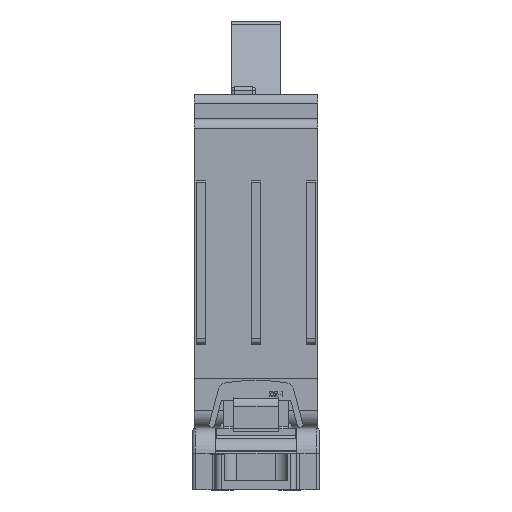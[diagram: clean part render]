
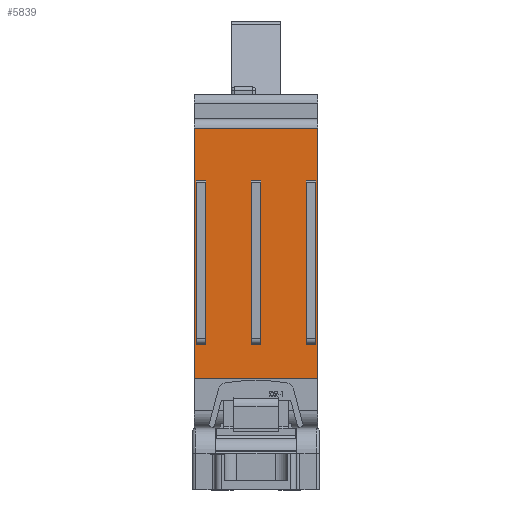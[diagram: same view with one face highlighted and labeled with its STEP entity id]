
A CAD part, front view. The second image highlights one B-rep face of the part: STEP entity #5839.
In plain terms, the highlighted planar face has unit normal (0, -1, 0).
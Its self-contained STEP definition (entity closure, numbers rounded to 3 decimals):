
#39 = CARTESIAN_POINT ( 'NONE',  ( 0.75, -37.25, 13.5 ) ) ;
#270 = VERTEX_POINT ( 'NONE', #23570 ) ;
#338 = CARTESIAN_POINT ( 'NONE',  ( -9.65, -37.25, 0. ) ) ;
#370 = DIRECTION ( 'NONE',  ( -1., 0., 0. ) ) ;
#659 = VECTOR ( 'NONE', #18708, 1000. ) ;
#660 = VECTOR ( 'NONE', #1988, 1000. ) ;
#692 = CARTESIAN_POINT ( 'NONE',  ( -9.65, -37.25, 38.8 ) ) ;
#833 = LINE ( 'NONE', #2550, #24282 ) ;
#991 = LINE ( 'NONE', #13465, #5293 ) ;
#1165 = EDGE_CURVE ( 'NONE', #5440, #18766, #5127, .T. ) ;
#1303 = EDGE_CURVE ( 'NONE', #20830, #5687, #17433, .T. ) ;
#1355 = LINE ( 'NONE', #19369, #18023 ) ;
#1531 = DIRECTION ( 'NONE',  ( -1., 0., 0. ) ) ;
#1660 = CARTESIAN_POINT ( 'NONE',  ( 8.15, -37.25, 38.8 ) ) ;
#1908 = LINE ( 'NONE', #16580, #19788 ) ;
#1969 = LINE ( 'NONE', #18112, #15812 ) ;
#1988 = DIRECTION ( 'NONE',  ( 0., 0., -1. ) ) ;
#2149 = CARTESIAN_POINT ( 'NONE',  ( -10., -37.25, 13.5 ) ) ;
#2218 = LINE ( 'NONE', #16321, #8042 ) ;
#2306 = EDGE_LOOP ( 'NONE', ( #9093, #5335, #13983, #15335 ) ) ;
#2320 = CARTESIAN_POINT ( 'NONE',  ( 10., -37.25, 48.5 ) ) ;
#2348 = DIRECTION ( 'NONE',  ( 0., 0., -1. ) ) ;
#2404 = CARTESIAN_POINT ( 'NONE',  ( 8.15, -37.25, 13.5 ) ) ;
#2537 = LINE ( 'NONE', #11949, #660 ) ;
#2550 = CARTESIAN_POINT ( 'NONE',  ( -8.15, -37.25, 0. ) ) ;
#2598 = VERTEX_POINT ( 'NONE', #2404 ) ;
#2762 = AXIS2_PLACEMENT_3D ( 'NONE', #8626, #16569, #4701 ) ;
#2987 = ORIENTED_EDGE ( 'NONE', *, *, #1303, .T. ) ;
#3101 = EDGE_CURVE ( 'NONE', #7949, #20461, #991, .T. ) ;
#3108 = VERTEX_POINT ( 'NONE', #15343 ) ;
#3258 = VECTOR ( 'NONE', #15623, 1000. ) ;
#3681 = VERTEX_POINT ( 'NONE', #15766 ) ;
#3708 = EDGE_CURVE ( 'NONE', #5687, #15985, #22842, .T. ) ;
#3719 = VECTOR ( 'NONE', #20377, 1000. ) ;
#4554 = CARTESIAN_POINT ( 'NONE',  ( 10., -37.25, 0. ) ) ;
#4569 = DIRECTION ( 'NONE',  ( -1., 0., 0. ) ) ;
#4701 = DIRECTION ( 'NONE',  ( 0., 0., 1. ) ) ;
#4776 = CARTESIAN_POINT ( 'NONE',  ( -8.15, -37.25, 38.8 ) ) ;
#4816 = DIRECTION ( 'NONE',  ( 0., 0., -1. ) ) ;
#4914 = CARTESIAN_POINT ( 'NONE',  ( 9.65, -37.25, 13.5 ) ) ;
#5127 = LINE ( 'NONE', #18298, #18377 ) ;
#5293 = VECTOR ( 'NONE', #9757, 1000. ) ;
#5335 = ORIENTED_EDGE ( 'NONE', *, *, #7184, .T. ) ;
#5415 = CARTESIAN_POINT ( 'NONE',  ( 10., -37.25, 8. ) ) ;
#5440 = VERTEX_POINT ( 'NONE', #4776 ) ;
#5504 = ORIENTED_EDGE ( 'NONE', *, *, #24450, .T. ) ;
#5675 = EDGE_CURVE ( 'NONE', #15425, #16868, #2537, .T. ) ;
#5687 = VERTEX_POINT ( 'NONE', #2149 ) ;
#5839 = ADVANCED_FACE ( 'NONE', ( #13592, #8353, #18246, #12981 ), #6678, .F. ) ;
#5951 = ORIENTED_EDGE ( 'NONE', *, *, #3101, .T. ) ;
#6106 = ORIENTED_EDGE ( 'NONE', *, *, #10709, .F. ) ;
#6678 = PLANE ( 'NONE',  #2762 ) ;
#6973 = ORIENTED_EDGE ( 'NONE', *, *, #7966, .F. ) ;
#7184 = EDGE_CURVE ( 'NONE', #16868, #11027, #21735, .T. ) ;
#7495 = CARTESIAN_POINT ( 'NONE',  ( 0.75, -37.25, 13.5 ) ) ;
#7821 = CARTESIAN_POINT ( 'NONE',  ( 9.65, -37.25, 13.5 ) ) ;
#7949 = VERTEX_POINT ( 'NONE', #9344 ) ;
#7966 = EDGE_CURVE ( 'NONE', #7949, #17741, #1355, .T. ) ;
#8042 = VECTOR ( 'NONE', #4569, 1000. ) ;
#8211 = EDGE_CURVE ( 'NONE', #10063, #20830, #23871, .T. ) ;
#8353 = FACE_BOUND ( 'NONE', #24610, .T. ) ;
#8626 = CARTESIAN_POINT ( 'NONE',  ( 10., -37.25, 0. ) ) ;
#8789 = CARTESIAN_POINT ( 'NONE',  ( -10., -37.25, 0. ) ) ;
#9000 = CARTESIAN_POINT ( 'NONE',  ( -8.15, -37.25, 13.5 ) ) ;
#9093 = ORIENTED_EDGE ( 'NONE', *, *, #5675, .T. ) ;
#9112 = EDGE_CURVE ( 'NONE', #3108, #270, #21490, .T. ) ;
#9344 = CARTESIAN_POINT ( 'NONE',  ( 9.65, -37.25, 38.8 ) ) ;
#9757 = DIRECTION ( 'NONE',  ( 0., 0., -1. ) ) ;
#9769 = VERTEX_POINT ( 'NONE', #9000 ) ;
#9860 = EDGE_CURVE ( 'NONE', #10063, #3108, #13469, .T. ) ;
#10063 = VERTEX_POINT ( 'NONE', #2320 ) ;
#10217 = VECTOR ( 'NONE', #1531, 1000. ) ;
#10439 = CARTESIAN_POINT ( 'NONE',  ( 10., -37.25, 48.5 ) ) ;
#10709 = EDGE_CURVE ( 'NONE', #17741, #2598, #15100, .T. ) ;
#11027 = VERTEX_POINT ( 'NONE', #15065 ) ;
#11126 = LINE ( 'NONE', #4914, #659 ) ;
#11490 = EDGE_LOOP ( 'NONE', ( #20435, #12624, #19901, #18840, #20305, #2987 ) ) ;
#11937 = CARTESIAN_POINT ( 'NONE',  ( 0.75, -37.25, 38.8 ) ) ;
#11949 = CARTESIAN_POINT ( 'NONE',  ( 0.75, -37.25, 0. ) ) ;
#12260 = DIRECTION ( 'NONE',  ( 0., 0., -1. ) ) ;
#12427 = DIRECTION ( 'NONE',  ( 0., 0., -1. ) ) ;
#12624 = ORIENTED_EDGE ( 'NONE', *, *, #15771, .F. ) ;
#12981 = FACE_OUTER_BOUND ( 'NONE', #11490, .T. ) ;
#13041 = ORIENTED_EDGE ( 'NONE', *, *, #19288, .T. ) ;
#13465 = CARTESIAN_POINT ( 'NONE',  ( 9.65, -37.25, 0. ) ) ;
#13469 = LINE ( 'NONE', #21856, #23359 ) ;
#13592 = FACE_BOUND ( 'NONE', #15301, .T. ) ;
#13639 = CARTESIAN_POINT ( 'NONE',  ( -10., -37.25, 8. ) ) ;
#13906 = EDGE_CURVE ( 'NONE', #9769, #14353, #2218, .T. ) ;
#13983 = ORIENTED_EDGE ( 'NONE', *, *, #23525, .F. ) ;
#14353 = VERTEX_POINT ( 'NONE', #17656 ) ;
#14471 = EDGE_CURVE ( 'NONE', #15425, #3681, #1969, .T. ) ;
#15065 = CARTESIAN_POINT ( 'NONE',  ( -0.75, -37.25, 13.5 ) ) ;
#15100 = LINE ( 'NONE', #20315, #21274 ) ;
#15229 = VECTOR ( 'NONE', #22693, 1000. ) ;
#15301 = EDGE_LOOP ( 'NONE', ( #17327, #5504, #20010, #18356 ) ) ;
#15335 = ORIENTED_EDGE ( 'NONE', *, *, #14471, .F. ) ;
#15343 = CARTESIAN_POINT ( 'NONE',  ( 10., -37.25, 13.5 ) ) ;
#15425 = VERTEX_POINT ( 'NONE', #11937 ) ;
#15623 = DIRECTION ( 'NONE',  ( -1., 0., 0. ) ) ;
#15698 = DIRECTION ( 'NONE',  ( 0., 0., -1. ) ) ;
#15766 = CARTESIAN_POINT ( 'NONE',  ( -0.75, -37.25, 38.8 ) ) ;
#15771 = EDGE_CURVE ( 'NONE', #270, #15985, #21332, .T. ) ;
#15812 = VECTOR ( 'NONE', #22069, 1000. ) ;
#15985 = VERTEX_POINT ( 'NONE', #13639 ) ;
#16321 = CARTESIAN_POINT ( 'NONE',  ( -8.15, -37.25, 13.5 ) ) ;
#16569 = DIRECTION ( 'NONE',  ( 0., 1., 0. ) ) ;
#16580 = CARTESIAN_POINT ( 'NONE',  ( -0.75, -37.25, 0. ) ) ;
#16868 = VERTEX_POINT ( 'NONE', #7495 ) ;
#17117 = LINE ( 'NONE', #338, #19904 ) ;
#17184 = VECTOR ( 'NONE', #12427, 1000. ) ;
#17327 = ORIENTED_EDGE ( 'NONE', *, *, #1165, .F. ) ;
#17433 = LINE ( 'NONE', #8789, #15229 ) ;
#17656 = CARTESIAN_POINT ( 'NONE',  ( -9.65, -37.25, 13.5 ) ) ;
#17741 = VERTEX_POINT ( 'NONE', #1660 ) ;
#18023 = VECTOR ( 'NONE', #24906, 1000. ) ;
#18030 = DIRECTION ( 'NONE',  ( -1., 0., 0. ) ) ;
#18112 = CARTESIAN_POINT ( 'NONE',  ( 0.75, -37.25, 38.8 ) ) ;
#18246 = FACE_BOUND ( 'NONE', #2306, .T. ) ;
#18298 = CARTESIAN_POINT ( 'NONE',  ( -8.15, -37.25, 38.8 ) ) ;
#18356 = ORIENTED_EDGE ( 'NONE', *, *, #22109, .F. ) ;
#18377 = VECTOR ( 'NONE', #370, 1000. ) ;
#18708 = DIRECTION ( 'NONE',  ( -1., 0., 0. ) ) ;
#18766 = VERTEX_POINT ( 'NONE', #692 ) ;
#18840 = ORIENTED_EDGE ( 'NONE', *, *, #9860, .F. ) ;
#19288 = EDGE_CURVE ( 'NONE', #20461, #2598, #11126, .T. ) ;
#19369 = CARTESIAN_POINT ( 'NONE',  ( 9.65, -37.25, 38.8 ) ) ;
#19788 = VECTOR ( 'NONE', #4816, 1000. ) ;
#19901 = ORIENTED_EDGE ( 'NONE', *, *, #9112, .F. ) ;
#19904 = VECTOR ( 'NONE', #2348, 1000. ) ;
#20010 = ORIENTED_EDGE ( 'NONE', *, *, #13906, .T. ) ;
#20231 = DIRECTION ( 'NONE',  ( 0., 0., -1. ) ) ;
#20297 = CARTESIAN_POINT ( 'NONE',  ( -10., -37.25, 0. ) ) ;
#20305 = ORIENTED_EDGE ( 'NONE', *, *, #8211, .T. ) ;
#20315 = CARTESIAN_POINT ( 'NONE',  ( 8.15, -37.25, 0. ) ) ;
#20377 = DIRECTION ( 'NONE',  ( 0., 0., -1. ) ) ;
#20435 = ORIENTED_EDGE ( 'NONE', *, *, #3708, .T. ) ;
#20461 = VERTEX_POINT ( 'NONE', #7821 ) ;
#20789 = VECTOR ( 'NONE', #18030, 1000. ) ;
#20830 = VERTEX_POINT ( 'NONE', #25285 ) ;
#21274 = VECTOR ( 'NONE', #20231, 1000. ) ;
#21332 = LINE ( 'NONE', #5415, #10217 ) ;
#21490 = LINE ( 'NONE', #4554, #17184 ) ;
#21735 = LINE ( 'NONE', #39, #3258 ) ;
#21856 = CARTESIAN_POINT ( 'NONE',  ( 10., -37.25, 0. ) ) ;
#22069 = DIRECTION ( 'NONE',  ( -1., 0., 0. ) ) ;
#22109 = EDGE_CURVE ( 'NONE', #18766, #14353, #17117, .T. ) ;
#22693 = DIRECTION ( 'NONE',  ( 0., 0., -1. ) ) ;
#22842 = LINE ( 'NONE', #20297, #3719 ) ;
#23359 = VECTOR ( 'NONE', #15698, 1000. ) ;
#23525 = EDGE_CURVE ( 'NONE', #3681, #11027, #1908, .T. ) ;
#23570 = CARTESIAN_POINT ( 'NONE',  ( 10., -37.25, 8. ) ) ;
#23871 = LINE ( 'NONE', #10439, #20789 ) ;
#24282 = VECTOR ( 'NONE', #12260, 1000. ) ;
#24450 = EDGE_CURVE ( 'NONE', #5440, #9769, #833, .T. ) ;
#24610 = EDGE_LOOP ( 'NONE', ( #6973, #5951, #13041, #6106 ) ) ;
#24906 = DIRECTION ( 'NONE',  ( -1., 0., 0. ) ) ;
#25285 = CARTESIAN_POINT ( 'NONE',  ( -10., -37.25, 48.5 ) ) ;
